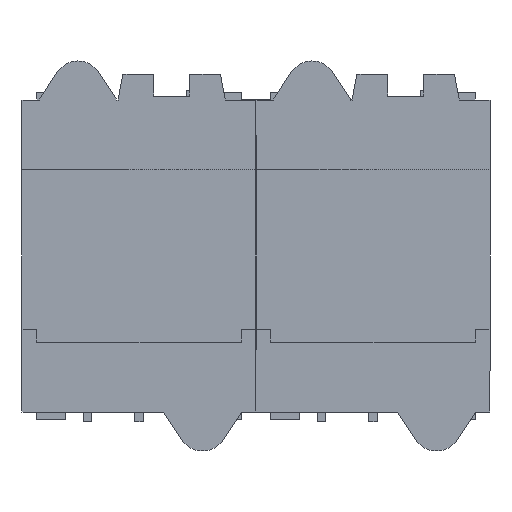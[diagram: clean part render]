
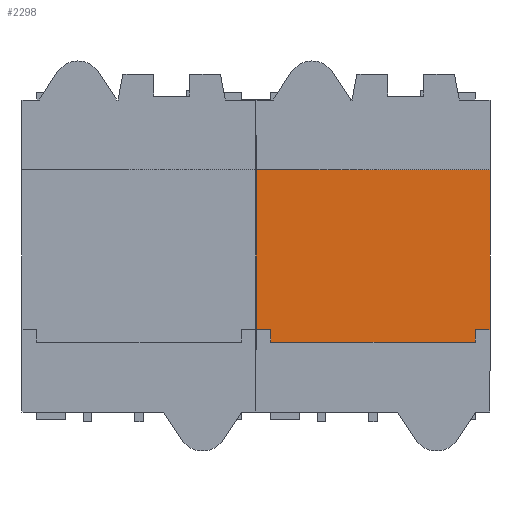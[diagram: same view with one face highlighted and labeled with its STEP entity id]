
A CAD part, front view. The second image highlights one B-rep face of the part: STEP entity #2298.
In plain terms, the highlighted planar face has unit normal (0, -1, 0).
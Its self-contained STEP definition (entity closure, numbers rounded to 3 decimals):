
#460 = EDGE_CURVE ( 'NONE', #12592, #3477, #2665, .T. ) ;
#494 = LINE ( 'NONE', #4849, #6322 ) ;
#1304 = DIRECTION ( 'NONE',  ( 0., 0., 1. ) ) ;
#1986 = LINE ( 'NONE', #2853, #8215 ) ;
#2017 = EDGE_CURVE ( 'NONE', #9955, #12592, #6786, .T. ) ;
#2298 = ADVANCED_FACE ( 'NONE', ( #4951 ), #8252, .F. ) ;
#2400 = CARTESIAN_POINT ( 'NONE',  ( 24., 4., -17.65 ) ) ;
#2450 = VERTEX_POINT ( 'NONE', #12165 ) ;
#2665 = LINE ( 'NONE', #2400, #14769 ) ;
#2853 = CARTESIAN_POINT ( 'NONE',  ( 24., 4., 17.65 ) ) ;
#3477 = VERTEX_POINT ( 'NONE', #9505 ) ;
#4204 = AXIS2_PLACEMENT_3D ( 'NONE', #13012, #8312, #1304 ) ;
#4436 = ORIENTED_EDGE ( 'NONE', *, *, #2017, .T. ) ;
#4849 = CARTESIAN_POINT ( 'NONE',  ( 24., 4., 17.65 ) ) ;
#4951 = FACE_OUTER_BOUND ( 'NONE', #15159, .T. ) ;
#5202 = ORIENTED_EDGE ( 'NONE', *, *, #460, .T. ) ;
#5522 = CARTESIAN_POINT ( 'NONE',  ( -24., 4., 17.65 ) ) ;
#5979 = DIRECTION ( 'NONE',  ( -1., 0., 0. ) ) ;
#6322 = VECTOR ( 'NONE', #5979, 1000. ) ;
#6695 = DIRECTION ( 'NONE',  ( 0., 0., -1. ) ) ;
#6786 = LINE ( 'NONE', #5522, #12704 ) ;
#7445 = ORIENTED_EDGE ( 'NONE', *, *, #14301, .T. ) ;
#8215 = VECTOR ( 'NONE', #9849, 1000. ) ;
#8252 = PLANE ( 'NONE',  #4204 ) ;
#8312 = DIRECTION ( 'NONE',  ( 0., 1., 0. ) ) ;
#9505 = CARTESIAN_POINT ( 'NONE',  ( 24., 4., -17.65 ) ) ;
#9559 = CARTESIAN_POINT ( 'NONE',  ( -24., 4., -17.65 ) ) ;
#9849 = DIRECTION ( 'NONE',  ( 0., 0., 1. ) ) ;
#9955 = VERTEX_POINT ( 'NONE', #12503 ) ;
#10535 = ORIENTED_EDGE ( 'NONE', *, *, #13624, .T. ) ;
#12165 = CARTESIAN_POINT ( 'NONE',  ( 24., 4., 17.65 ) ) ;
#12503 = CARTESIAN_POINT ( 'NONE',  ( -24., 4., 17.65 ) ) ;
#12592 = VERTEX_POINT ( 'NONE', #9559 ) ;
#12704 = VECTOR ( 'NONE', #6695, 1000. ) ;
#12971 = DIRECTION ( 'NONE',  ( 1., 0., 0. ) ) ;
#13012 = CARTESIAN_POINT ( 'NONE',  ( 0., 4., 0. ) ) ;
#13624 = EDGE_CURVE ( 'NONE', #3477, #2450, #1986, .T. ) ;
#14301 = EDGE_CURVE ( 'NONE', #2450, #9955, #494, .T. ) ;
#14769 = VECTOR ( 'NONE', #12971, 1000. ) ;
#15159 = EDGE_LOOP ( 'NONE', ( #4436, #5202, #10535, #7445 ) ) ;
